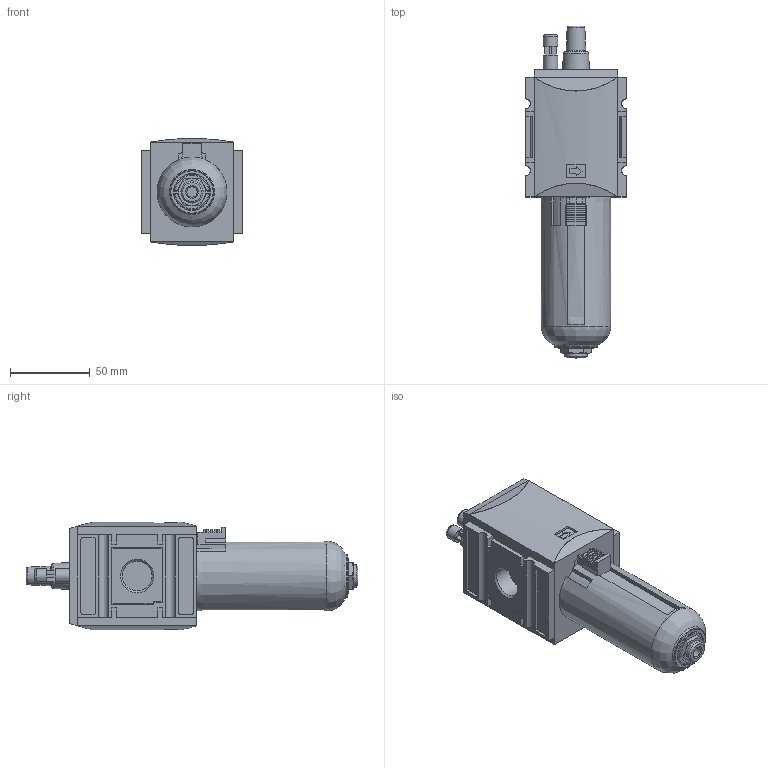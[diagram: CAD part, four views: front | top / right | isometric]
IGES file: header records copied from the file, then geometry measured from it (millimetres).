
Start section: Data from Parasolid IGES Translator 17.0.49, Copyright(c) 2006 Siemens P LM Software. All Rights Reserved.
Global section: file name: FU 904.igs; native system: By Siemens PLM Incorporated; preprocessor: XPlus GENERIC/IGES 17.0.49; author: Noname; organization: Noname; date: 20170112.145223; units: millimetre
Bounding box: 63 x 208.2 x 67.13 mm (x, y, z)
Surface area: 53402.4 mm2 (no closed solid volume)
Topology: 0 solids, 0 shells, 329 faces, 1738 edges, 1692 vertices
Faces by surface type: extrusion 217, revolution 112
